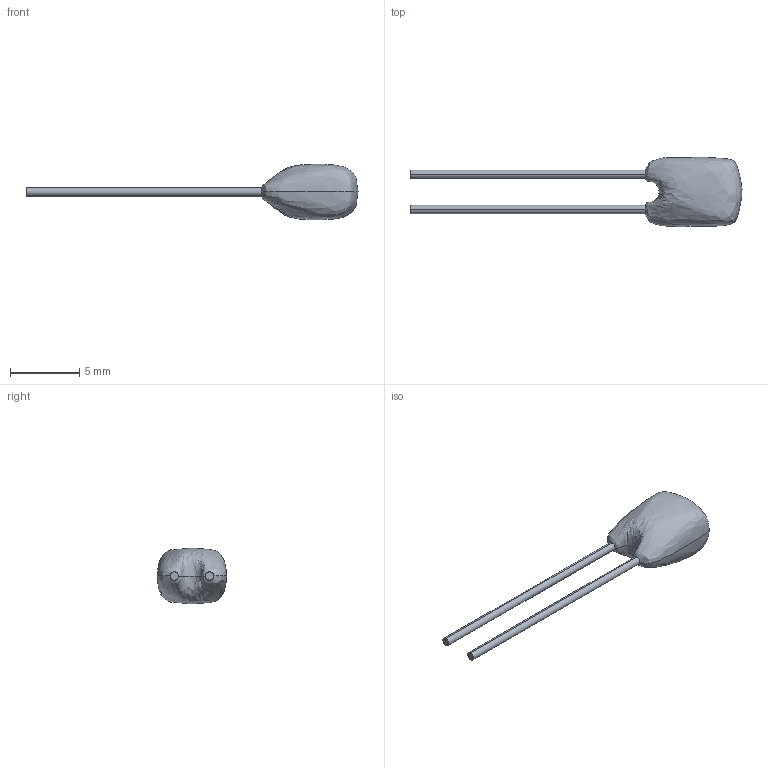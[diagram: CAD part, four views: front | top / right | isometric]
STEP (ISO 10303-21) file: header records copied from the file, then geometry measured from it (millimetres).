
FILE_DESCRIPTION (( 'STEP AP203' ), '1' );
FILE_NAME ('NTCLE100bModel1 STP.STEP', '2018-07-31T09:41:03', ( '' ), ( '' ), 'SwSTEP 2.0', 'SolidWorks 2018', '' );
FILE_SCHEMA (( 'CONFIG_CONTROL_DESIGN' ));
Length unit declared in the file: millimetre
Products named in the file (1): NTCLE100bModel1 STP
Bounding box: 23.99 x 5 x 4 mm (x, y, z)
Volume: 101.7 mm3; surface area: 172.5 mm2
Topology: 1 solids, 1 shells, 8 faces, 18 edges, 12 vertices
Faces by surface type: cylinder 4, bspline 2, plane 2
Entity records: 2235 total; most frequent: CARTESIAN_POINT 1973, DIRECTION 42, ORIENTED_EDGE 36, AXIS2_PLACEMENT_3D 19, EDGE_CURVE 18, CIRCLE 12, VERTEX_POINT 12, ADVANCED_FACE 8
